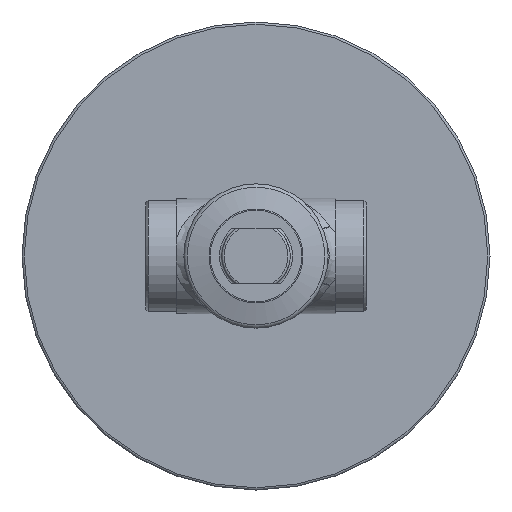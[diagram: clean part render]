
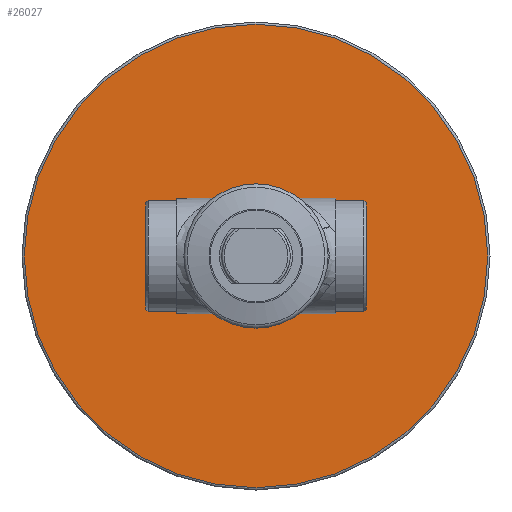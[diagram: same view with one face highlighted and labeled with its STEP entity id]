
A CAD part, front view. The second image highlights one B-rep face of the part: STEP entity #26027.
In plain terms, the highlighted planar face has unit normal (0, -1, 0).
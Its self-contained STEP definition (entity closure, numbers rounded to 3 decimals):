
#25912=CARTESIAN_POINT('',(0.,83.,-152.5));
#25913=VERTEX_POINT('',#25912);
#25914=CARTESIAN_POINT('',(0.,83.,0.));
#25915=DIRECTION('',(0.0,-1.0,0.0));
#25916=DIRECTION('',(0.0,0.0,-1.0));
#25917=AXIS2_PLACEMENT_3D('',#25914,#25915,#25916);
#25918=CIRCLE('',#25917,152.5);
#25919=EDGE_CURVE('',#25913,#25913,#25918,.T.);
#25940=CARTESIAN_POINT('',(0.,83.,-36.7));
#25941=VERTEX_POINT('',#25940);
#25942=CARTESIAN_POINT('',(0.,83.,0.));
#25943=DIRECTION('',(0.0,-1.0,0.0));
#25944=DIRECTION('',(0.0,0.0,-1.0));
#25945=AXIS2_PLACEMENT_3D('',#25942,#25943,#25944);
#25946=CIRCLE('',#25945,36.7);
#25947=EDGE_CURVE('',#25941,#25941,#25946,.T.);
#26016=CARTESIAN_POINT('',(152.5,83.,0.));
#26017=DIRECTION('',(0.0,-1.0,0.0));
#26018=DIRECTION('',(0.0,0.0,-1.0));
#26019=AXIS2_PLACEMENT_3D('',#26016,#26017,#26018);
#26020=PLANE('',#26019);
#26021=ORIENTED_EDGE('',*,*,#25919,.T.);
#26022=EDGE_LOOP('',(#26021));
#26023=FACE_OUTER_BOUND('',#26022,.T.);
#26024=ORIENTED_EDGE('',*,*,#25947,.F.);
#26025=EDGE_LOOP('',(#26024));
#26026=FACE_BOUND('',#26025,.T.);
#26027=ADVANCED_FACE('',(#26023,#26026),#26020,.T.);
